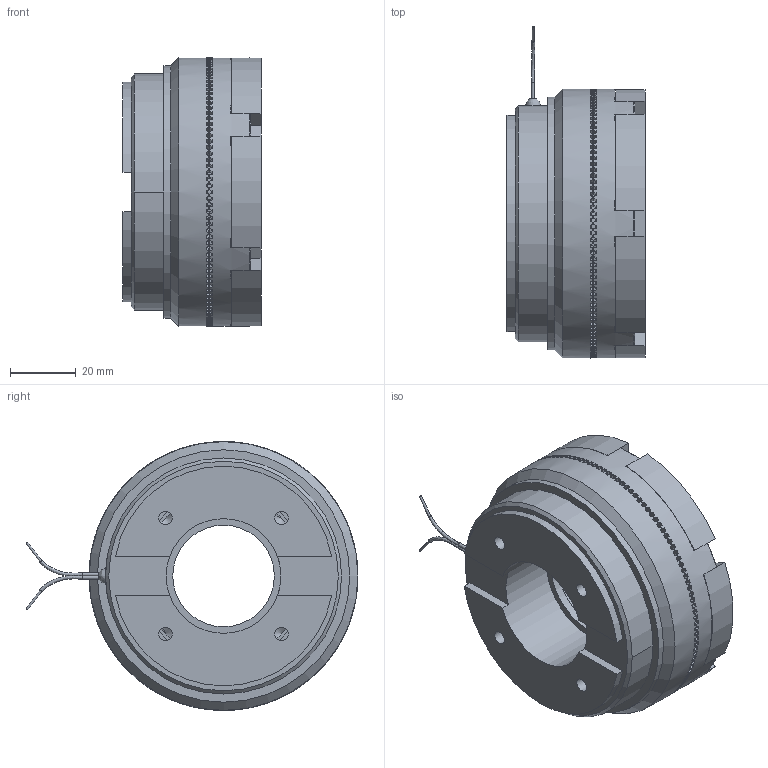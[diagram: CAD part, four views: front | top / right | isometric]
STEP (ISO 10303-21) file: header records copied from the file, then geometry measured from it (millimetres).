
FILE_DESCRIPTION(/* description */ (''),/* implementation_level */ '2;1');
FILE_NAME(/* name */ 'X:\INVENTOR\DISEGNI\07_Innesti_Elettmag_a_Dentini\07_09 EBLF_Z\07_09_082_01 EBLF082_Z\07_09_.082_01 EBLF082_Z@STEP.stp',/* time_stamp */ '2023-02-09T13:42:21+01:00',/* author */ ('alessio'),/* organization */ (''),/* preprocessor_version */ 'ST-DEVELOPER v18.1',/* originating_system */ 'Autodesk Inventor 2021',/* authorisation */ '');
FILE_SCHEMA (('AUTOMOTIVE_DESIGN { 1 0 10303 214 3 1 1 }'));
Length unit declared in the file: millimetre
Products named in the file (1): 07_09_.082_01 EBLF082_Z
Bounding box: 42.1 x 101.24 x 82 mm (x, y, z)
Volume: 146129.9 mm3; surface area: 52760.1 mm2
Topology: 4 solids, 7 shells, 1346 faces, 3915 edges, 2579 vertices
Faces by surface type: plane 1197, cylinder 75, bspline 48, cone 24, torus 2
Full cylindrical faces by diameter (mm): 0.72 x2, 1 x1, 3 x4, 3.242 x6, 4.134 x4, 5.25 x3, 5.75 x3, 8 x3, 9.5 x3, 31 x1, 34.5 x1, 35 x3, 50 x2, 52 x1, 64 x1, 66 x2, 74.5 x1, 75 x2, 77 x1, 82 x2
Entity records: 48862 total; most frequent: CARTESIAN_POINT 11061, DIRECTION 8771, ORIENTED_EDGE 7816, EDGE_CURVE 3908, AXIS2_PLACEMENT_3D 3704, VERTEX_POINT 2580, ELLIPSE 1565, EDGE_LOOP 1393
